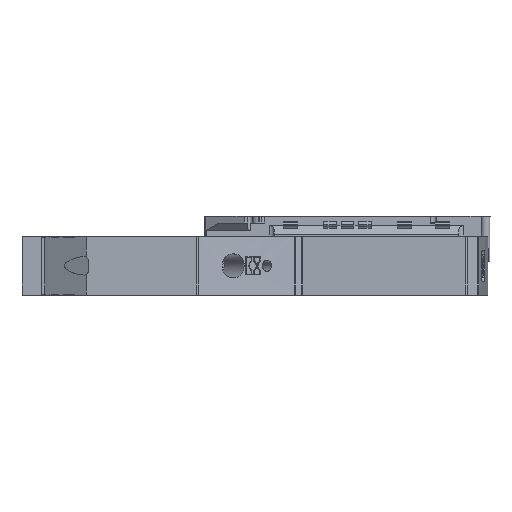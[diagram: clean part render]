
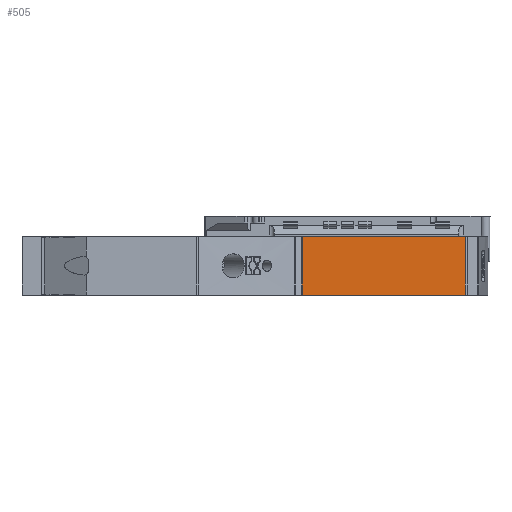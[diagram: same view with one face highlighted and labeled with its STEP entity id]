
A CAD part, front view. The second image highlights one B-rep face of the part: STEP entity #505.
In plain terms, the highlighted planar face has unit normal (0, -1, 0).
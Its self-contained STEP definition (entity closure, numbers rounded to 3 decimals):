
#505 = ADVANCED_FACE( '', ( #1887 ), #1888, .F. );
#1887 = FACE_OUTER_BOUND( '', #3997, .T. );
#1888 = PLANE( '', #3998 );
#3997 = EDGE_LOOP( '', ( #8514, #8515, #8516, #8517 ) );
#3998 = AXIS2_PLACEMENT_3D( '', #8518, #8519, #8520 );
#8514 = ORIENTED_EDGE( '', *, *, #16315, .T. );
#8515 = ORIENTED_EDGE( '', *, *, #16314, .F. );
#8516 = ORIENTED_EDGE( '', *, *, #16316, .F. );
#8517 = ORIENTED_EDGE( '', *, *, #16317, .T. );
#8518 = CARTESIAN_POINT( '', ( 6.15, -26., 44.31 ) );
#8519 = DIRECTION( '', ( 0., 1., 0. ) );
#8520 = DIRECTION( '', ( 0., 0., 1. ) );
#16314 = EDGE_CURVE( '', #20744, #20742, #20746, .T. );
#16315 = EDGE_CURVE( '', #20747, #20742, #20748, .T. );
#16316 = EDGE_CURVE( '', #20749, #20744, #20750, .T. );
#16317 = EDGE_CURVE( '', #20749, #20747, #20751, .T. );
#20742 = VERTEX_POINT( '', #27413 );
#20744 = VERTEX_POINT( '', #27415 );
#20746 = LINE( '', #27417, #27418 );
#20747 = VERTEX_POINT( '', #27419 );
#20748 = LINE( '', #27420, #27421 );
#20749 = VERTEX_POINT( '', #27422 );
#20750 = LINE( '', #27423, #27424 );
#20751 = LINE( '', #27425, #27426 );
#27413 = CARTESIAN_POINT( '', ( -6.15, -26., 9.998 ) );
#27415 = CARTESIAN_POINT( '', ( 6.15, -26., 9.998 ) );
#27417 = CARTESIAN_POINT( '', ( 6.15, -26., 9.998 ) );
#27418 = VECTOR( '', #32749, 1000. );
#27419 = CARTESIAN_POINT( '', ( -6.15, -26., 44.31 ) );
#27420 = CARTESIAN_POINT( '', ( -6.15, -26., 44.31 ) );
#27421 = VECTOR( '', #32750, 1000. );
#27422 = CARTESIAN_POINT( '', ( 6.15, -26., 44.31 ) );
#27423 = CARTESIAN_POINT( '', ( 6.15, -26., 44.31 ) );
#27424 = VECTOR( '', #32751, 1000. );
#27425 = CARTESIAN_POINT( '', ( 6.15, -26., 44.31 ) );
#27426 = VECTOR( '', #32752, 1000. );
#32749 = DIRECTION( '', ( -1., 0., 0. ) );
#32750 = DIRECTION( '', ( 0., 0., -1. ) );
#32751 = DIRECTION( '', ( 0., 0., -1. ) );
#32752 = DIRECTION( '', ( -1., 0., 0. ) );
